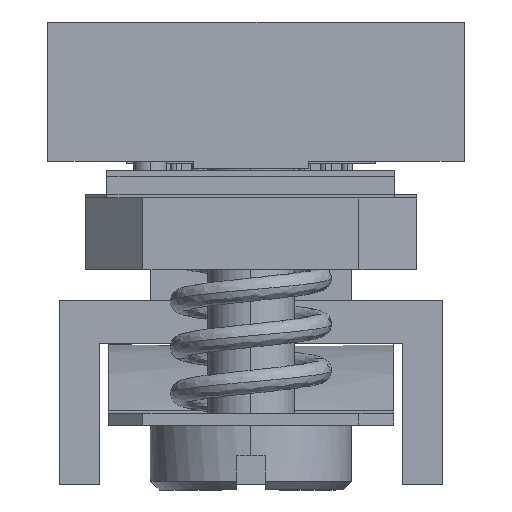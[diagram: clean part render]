
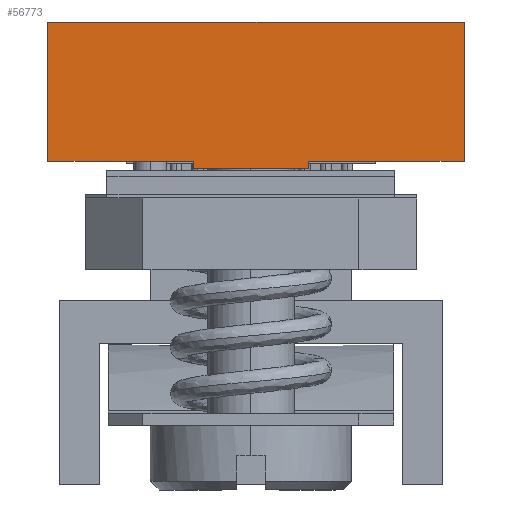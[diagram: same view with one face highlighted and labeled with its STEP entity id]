
A CAD part, left-side view. The second image highlights one B-rep face of the part: STEP entity #56773.
In plain terms, the highlighted planar face has unit normal (-1, 0, 0).
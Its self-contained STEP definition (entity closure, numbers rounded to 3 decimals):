
#5990 = EDGE_LOOP ( 'NONE', ( #10996, #10997, #10998, #10999, #11000, #11001, #11002, #11003 ) ) ;
#6652 = VERTEX_POINT ( 'NONE', #26580 ) ;
#6655 = VERTEX_POINT ( 'NONE', #26583 ) ;
#6682 = VERTEX_POINT ( 'NONE', #26610 ) ;
#6683 = VERTEX_POINT ( 'NONE', #26611 ) ;
#6721 = VERTEX_POINT ( 'NONE', #26649 ) ;
#6722 = VERTEX_POINT ( 'NONE', #26650 ) ;
#6724 = VERTEX_POINT ( 'NONE', #26652 ) ;
#6728 = VERTEX_POINT ( 'NONE', #26656 ) ;
#8975 = EDGE_CURVE ( 'NONE', #6655, #6682, #28445, .T. ) ;
#8979 = EDGE_CURVE ( 'NONE', #6683, #6652, #28453, .T. ) ;
#9039 = EDGE_CURVE ( 'NONE', #6721, #6724, #28565, .T. ) ;
#9040 = EDGE_CURVE ( 'NONE', #6724, #6683, #28567, .T. ) ;
#9041 = EDGE_CURVE ( 'NONE', #6722, #6652, #28569, .T. ) ;
#9042 = EDGE_CURVE ( 'NONE', #6728, #6722, #28571, .T. ) ;
#9043 = EDGE_CURVE ( 'NONE', #6728, #6655, #28561, .T. ) ;
#9044 = EDGE_CURVE ( 'NONE', #6721, #6682, #28575, .T. ) ;
#10996 = ORIENTED_EDGE ( 'NONE', *, *, #9039, .T. ) ;
#10997 = ORIENTED_EDGE ( 'NONE', *, *, #9040, .T. ) ;
#10998 = ORIENTED_EDGE ( 'NONE', *, *, #8979, .T. ) ;
#10999 = ORIENTED_EDGE ( 'NONE', *, *, #9041, .F. ) ;
#11000 = ORIENTED_EDGE ( 'NONE', *, *, #9042, .F. ) ;
#11001 = ORIENTED_EDGE ( 'NONE', *, *, #9043, .T. ) ;
#11002 = ORIENTED_EDGE ( 'NONE', *, *, #8975, .T. ) ;
#11003 = ORIENTED_EDGE ( 'NONE', *, *, #9044, .F. ) ;
#26580 = CARTESIAN_POINT ( 'NONE',  ( -20., -2., 5.83 ) ) ;
#26583 = CARTESIAN_POINT ( 'NONE',  ( -20., 2., 5.83 ) ) ;
#26610 = CARTESIAN_POINT ( 'NONE',  ( -20., 7.4, 5.83 ) ) ;
#26611 = CARTESIAN_POINT ( 'NONE',  ( -20., -7.05, 5.83 ) ) ;
#26649 = CARTESIAN_POINT ( 'NONE',  ( -20., 7.4, 1. ) ) ;
#26650 = CARTESIAN_POINT ( 'NONE',  ( -20., -2., 6.08 ) ) ;
#26652 = CARTESIAN_POINT ( 'NONE',  ( -20., -7.05, 1. ) ) ;
#26656 = CARTESIAN_POINT ( 'NONE',  ( -20., 2., 6.08 ) ) ;
#28445 = LINE ( 'NONE', #29672, #28450 ) ;
#28450 = VECTOR ( 'NONE', #29677, 1000. ) ;
#28453 = LINE ( 'NONE', #29680, #28458 ) ;
#28458 = VECTOR ( 'NONE', #29684, 1000. ) ;
#28561 = LINE ( 'NONE', #29800, #28576 ) ;
#28565 = LINE ( 'NONE', #29814, #28568 ) ;
#28567 = LINE ( 'NONE', #29816, #28570 ) ;
#28568 = VECTOR ( 'NONE', #29815, 1000. ) ;
#28569 = LINE ( 'NONE', #29818, #28572 ) ;
#28570 = VECTOR ( 'NONE', #29817, 1000. ) ;
#28571 = LINE ( 'NONE', #29820, #28574 ) ;
#28572 = VECTOR ( 'NONE', #29819, 1000. ) ;
#28574 = VECTOR ( 'NONE', #29822, 1000. ) ;
#28575 = LINE ( 'NONE', #29824, #28578 ) ;
#28576 = VECTOR ( 'NONE', #29823, 1000. ) ;
#28578 = VECTOR ( 'NONE', #29826, 1000. ) ;
#29672 = CARTESIAN_POINT ( 'NONE',  ( -20., 6., 5.83 ) ) ;
#29677 = DIRECTION ( 'NONE',  ( 0., 1., 0. ) ) ;
#29680 = CARTESIAN_POINT ( 'NONE',  ( -20., 6., 5.83 ) ) ;
#29684 = DIRECTION ( 'NONE',  ( 0., 1., 0. ) ) ;
#29800 = CARTESIAN_POINT ( 'NONE',  ( -20., 2., 6.08 ) ) ;
#29814 = CARTESIAN_POINT ( 'NONE',  ( -20., 6., 1. ) ) ;
#29815 = DIRECTION ( 'NONE',  ( 0., -1., 0. ) ) ;
#29816 = CARTESIAN_POINT ( 'NONE',  ( -20., -7.05, -39.024 ) ) ;
#29817 = DIRECTION ( 'NONE',  ( 0., 0., 1. ) ) ;
#29818 = CARTESIAN_POINT ( 'NONE',  ( -20., -2., 6.08 ) ) ;
#29819 = DIRECTION ( 'NONE',  ( 0., 0., -1. ) ) ;
#29820 = CARTESIAN_POINT ( 'NONE',  ( -20., 2., 6.08 ) ) ;
#29822 = DIRECTION ( 'NONE',  ( 0., -1., 0. ) ) ;
#29823 = DIRECTION ( 'NONE',  ( 0., 0., -1. ) ) ;
#29824 = CARTESIAN_POINT ( 'NONE',  ( -20., 7.4, -39.024 ) ) ;
#29826 = DIRECTION ( 'NONE',  ( 0., 0., 1. ) ) ;
#44808 = FACE_OUTER_BOUND ( 'NONE', #5990, .T. ) ;
#47054 = CARTESIAN_POINT ( 'NONE',  ( -20., 6., 0. ) ) ;
#47061 = PLANE ( 'NONE',  #48052 ) ;
#47063 = DIRECTION ( 'NONE',  ( -1., 0., 0. ) ) ;
#47064 = DIRECTION ( 'NONE',  ( 0., 0., 1. ) ) ;
#48052 = AXIS2_PLACEMENT_3D ( 'NONE', #47054, #47063, #47064 ) ;
#56773 = ADVANCED_FACE ( 'NONE', ( #44808 ), #47061, .T. ) ;
